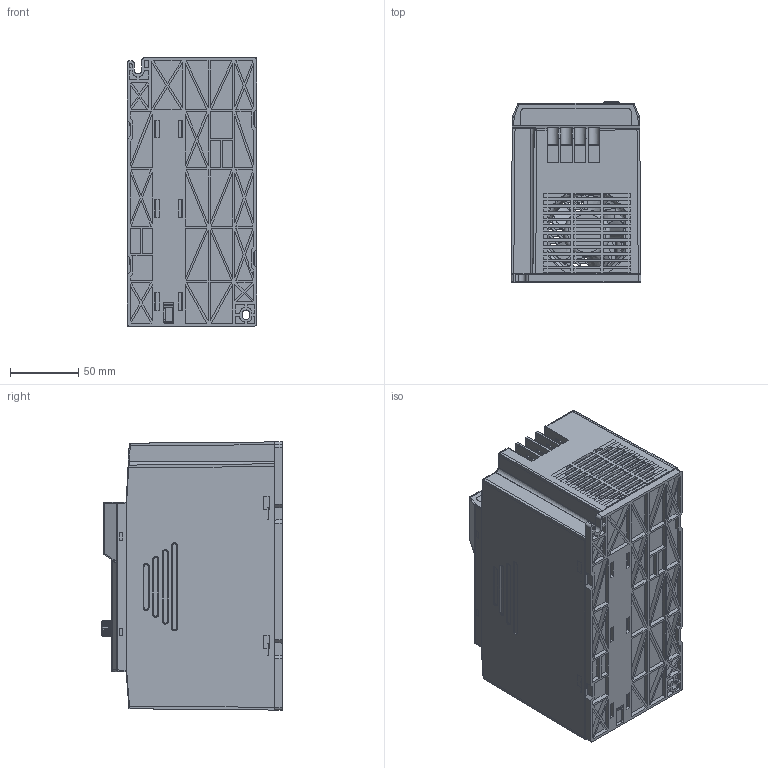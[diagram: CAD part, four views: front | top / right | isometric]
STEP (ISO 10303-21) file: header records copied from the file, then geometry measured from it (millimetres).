
FILE_DESCRIPTION((''),'2;1');
FILE_NAME('VM600G-4KW','2023-08-31T21:22:34',('A004155'),(''),'CREO PARAMETRIC BY PTC INC, 2020074','CREO PARAMETRIC BY PTC INC, 2020074','');
FILE_SCHEMA(('CONFIG_CONTROL_DESIGN'));
Products named in the file (1): VM600G-4KW
Bounding box: 95 x 131.8 x 196.02 mm (x, y, z)
Surface area: 726546.4 mm2 (no closed solid volume)
Topology: 0 solids, 13 shells, 7184 faces, 20526 edges, 13622 vertices
Faces by surface type: plane 4608, cylinder 2005, cone 193, bspline 152, torus 120, extrusion 58, sphere 46, revolution 2
Entity records: 249554 total; most frequent: CARTESIAN_POINT 64603, ORIENTED_EDGE 40960, DIRECTION 34399, EDGE_CURVE 20480, VECTOR 14651, LINE 14593, VERTEX_POINT 13622, AXIS2_PLACEMENT_3D 9873
